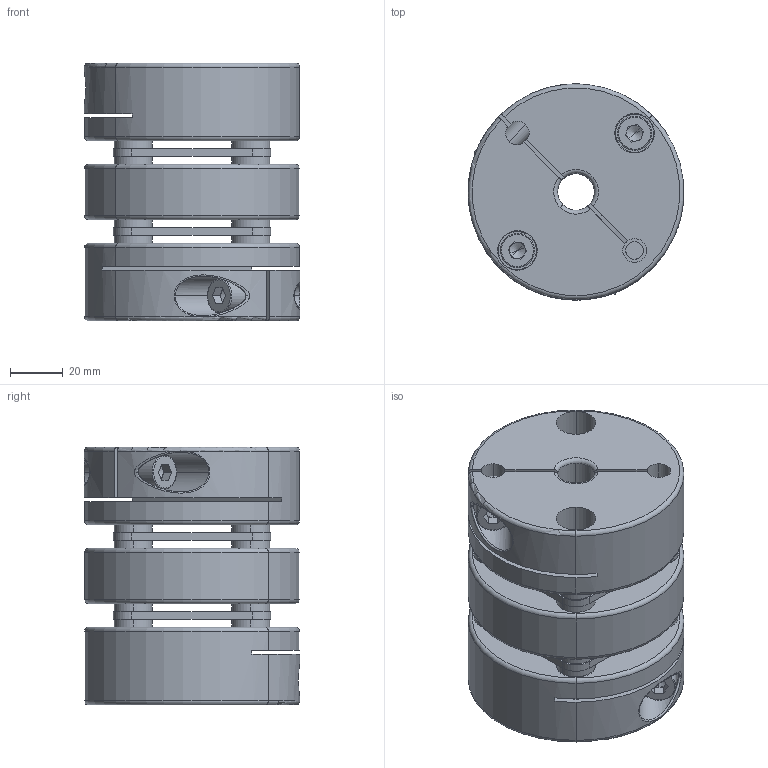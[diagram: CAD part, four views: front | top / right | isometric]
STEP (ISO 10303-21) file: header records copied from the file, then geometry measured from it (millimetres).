
FILE_DESCRIPTION (( 'STEP AP203' ), '1' );
FILE_NAME ('DXC-82X98-14-14.STEP', '2024-03-16T07:05:45', ( '' ), ( '' ), 'SwSTEP 2.0', 'SolidWorks 2020', '' );
FILE_SCHEMA (( 'CONFIG_CONTROL_DESIGN' ));
Length unit declared in the file: millimetre
Products named in the file (6): 82臚え郪; 82臚え薊粣ん傷裔; socket head cap screw_iso_ISO 4762 M8 x 16 - 16C; socket head cap screw_iso_ISO 4762 M8 x 25 - 25C; 82臚え倰笢潔璃ㄗ21綠ㄘ; DXC-82X98-14-14
Assembly tree (15 placements, depth 2):
  DXC-82X98-14-14
    82臚え郪  x2
    82臚え薊粣ん傷裔  x2
    socket head cap screw_iso_ISO 4762 M8 x 16 - 16C  x8
    socket head cap screw_iso_ISO 4762 M8 x 25 - 25C  x2
    82臚え倰笢潔璃ㄗ21綠ㄘ
Bounding box: 82 x 82 x 98 mm (x, y, z)
Volume: 368168.6 mm3; surface area: 103158.9 mm2
Topology: 15 solids, 15 shells, 508 faces, 1194 edges, 730 vertices
Faces by surface type: plane 208, cylinder 184, torus 68, cone 40, bspline 8
Entity records: 8764 total; most frequent: CARTESIAN_POINT 3304, DIRECTION 1049, ORIENTED_EDGE 890, EDGE_CURVE 445, AXIS2_PLACEMENT_3D 436, VERTEX_POINT 282, CIRCLE 238, EDGE_LOOP 233
